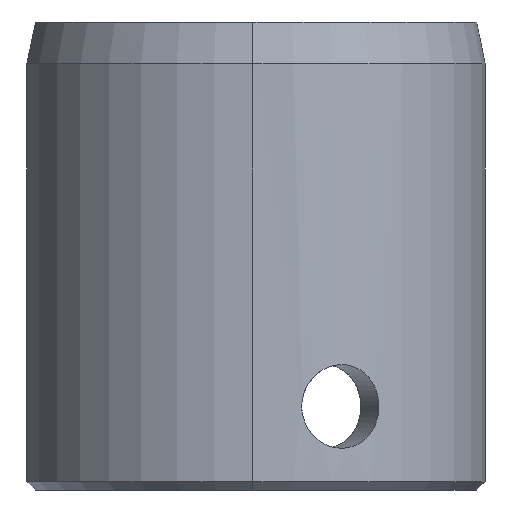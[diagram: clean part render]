
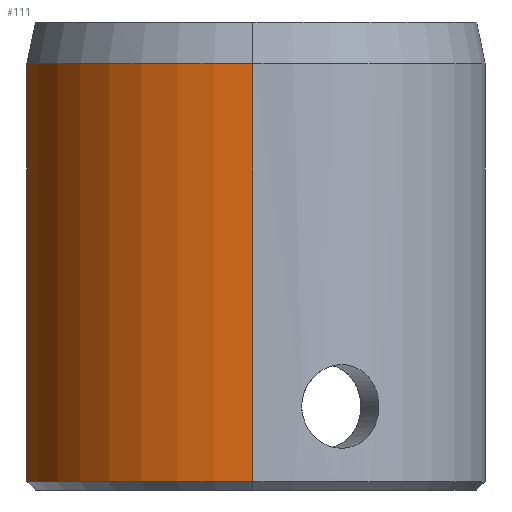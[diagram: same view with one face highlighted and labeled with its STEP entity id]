
A CAD part, left-side view. The second image highlights one B-rep face of the part: STEP entity #111.
In plain terms, the highlighted cylindrical face has radius 27.781 mm (diameter 55.562 mm), a partial arc.
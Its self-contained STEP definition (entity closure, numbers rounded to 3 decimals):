
#19 = DIRECTION ( 'NONE',  ( 0., 0., -1. ) ) ;
#28 = VERTEX_POINT ( 'NONE', #831 ) ;
#48 = CARTESIAN_POINT ( 'NONE',  ( -6.35, 27.046, 28. ) ) ;
#53 = AXIS2_PLACEMENT_3D ( 'NONE', #473, #991, #382 ) ;
#76 = DIRECTION ( 'NONE',  ( 0., 0., -1. ) ) ;
#111 = ADVANCED_FACE ( 'NONE', ( #679 ), #1122, .T. ) ;
#151 = CARTESIAN_POINT ( 'NONE',  ( -27.781, 0., -27. ) ) ;
#169 = CIRCLE ( 'NONE', #514, 27.781 ) ;
#179 = AXIS2_PLACEMENT_3D ( 'NONE', #778, #76, #248 ) ;
#236 = DIRECTION ( 'NONE',  ( 0., 0., -1. ) ) ;
#248 = DIRECTION ( 'NONE',  ( -1., 0., 0. ) ) ;
#382 = DIRECTION ( 'NONE',  ( 1., 0., 0. ) ) ;
#446 = ORIENTED_EDGE ( 'NONE', *, *, #601, .T. ) ;
#463 = EDGE_CURVE ( 'NONE', #28, #638, #905, .T. ) ;
#472 = VERTEX_POINT ( 'NONE', #660 ) ;
#473 = CARTESIAN_POINT ( 'NONE',  ( 0., 0., -27. ) ) ;
#480 = EDGE_LOOP ( 'NONE', ( #1125, #446, #614, #549 ) ) ;
#514 = AXIS2_PLACEMENT_3D ( 'NONE', #771, #236, #854 ) ;
#549 = ORIENTED_EDGE ( 'NONE', *, *, #463, .T. ) ;
#601 = EDGE_CURVE ( 'NONE', #472, #701, #169, .T. ) ;
#614 = ORIENTED_EDGE ( 'NONE', *, *, #683, .T. ) ;
#638 = VERTEX_POINT ( 'NONE', #151 ) ;
#660 = CARTESIAN_POINT ( 'NONE',  ( -27.781, 0., 23. ) ) ;
#669 = LINE ( 'NONE', #851, #1093 ) ;
#679 = FACE_OUTER_BOUND ( 'NONE', #480, .T. ) ;
#683 = EDGE_CURVE ( 'NONE', #701, #28, #1025, .T. ) ;
#701 = VERTEX_POINT ( 'NONE', #858 ) ;
#771 = CARTESIAN_POINT ( 'NONE',  ( 0., 0., 23. ) ) ;
#778 = CARTESIAN_POINT ( 'NONE',  ( 0., 0., 28. ) ) ;
#822 = VECTOR ( 'NONE', #19, 1000. ) ;
#831 = CARTESIAN_POINT ( 'NONE',  ( -6.35, 27.046, -27. ) ) ;
#851 = CARTESIAN_POINT ( 'NONE',  ( -27.781, 0., 28. ) ) ;
#854 = DIRECTION ( 'NONE',  ( 1., 0., 0. ) ) ;
#858 = CARTESIAN_POINT ( 'NONE',  ( -6.35, 27.046, 23. ) ) ;
#879 = EDGE_CURVE ( 'NONE', #472, #638, #669, .T. ) ;
#900 = DIRECTION ( 'NONE',  ( 0., 0., -1. ) ) ;
#905 = CIRCLE ( 'NONE', #53, 27.781 ) ;
#991 = DIRECTION ( 'NONE',  ( 0., 0., 1. ) ) ;
#1025 = LINE ( 'NONE', #48, #822 ) ;
#1093 = VECTOR ( 'NONE', #900, 1000. ) ;
#1122 = CYLINDRICAL_SURFACE ( 'NONE', #179, 27.781 ) ;
#1125 = ORIENTED_EDGE ( 'NONE', *, *, #879, .F. ) ;
